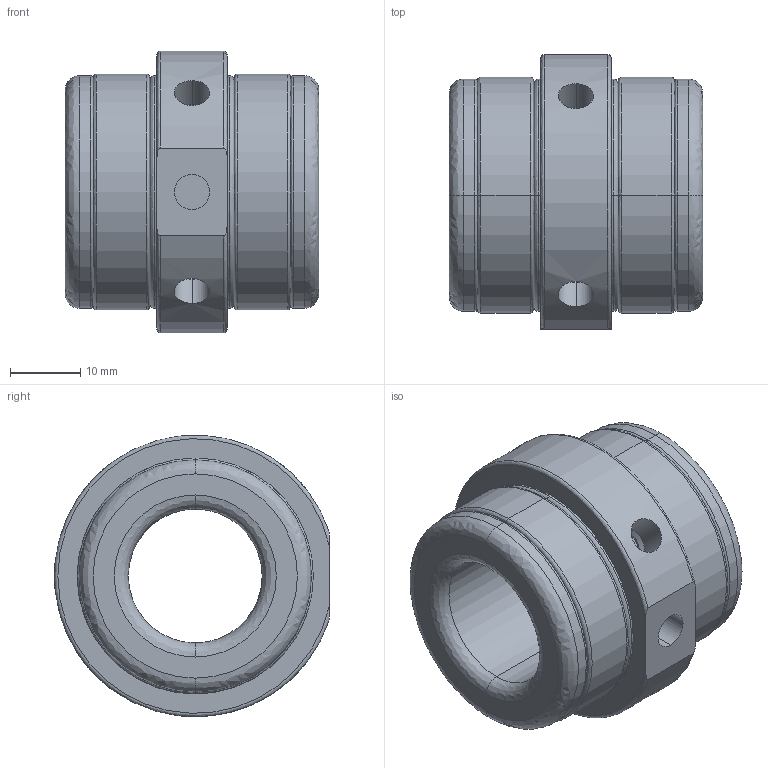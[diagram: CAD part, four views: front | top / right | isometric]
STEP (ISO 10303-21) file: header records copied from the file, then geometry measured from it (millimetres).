
FILE_DESCRIPTION( (''), '2;1');
FILE_NAME ('TGMX25.528.RBG020GCA_9067.stp','2015-03-30T14:00:30',(''),(''),'spGate 11.3.7','spGate','');
FILE_SCHEMA (('AUTOMOTIVE_DESIGN'));
Length unit declared in the file: millimetre
Bounding box: 36 x 38.93 x 39.94 mm (x, y, z)
Volume: 24019.2 mm3; surface area: 8466.2 mm2
Topology: 1 solids, 1 shells, 83 faces, 176 edges, 96 vertices
Faces by surface type: bspline 42, cylinder 33, plane 8
Entity records: 4457 total; most frequent: CARTESIAN_POINT 1561, ORIENTED_EDGE 336, COLOUR_RGB 252, PRESENTATION_STYLE_ASSIGNMENT 252, STYLED_ITEM 252, DIRECTION 246, EDGE_CURVE 168, DRAUGHTING_PRE_DEFINED_CURVE_FONT 168
